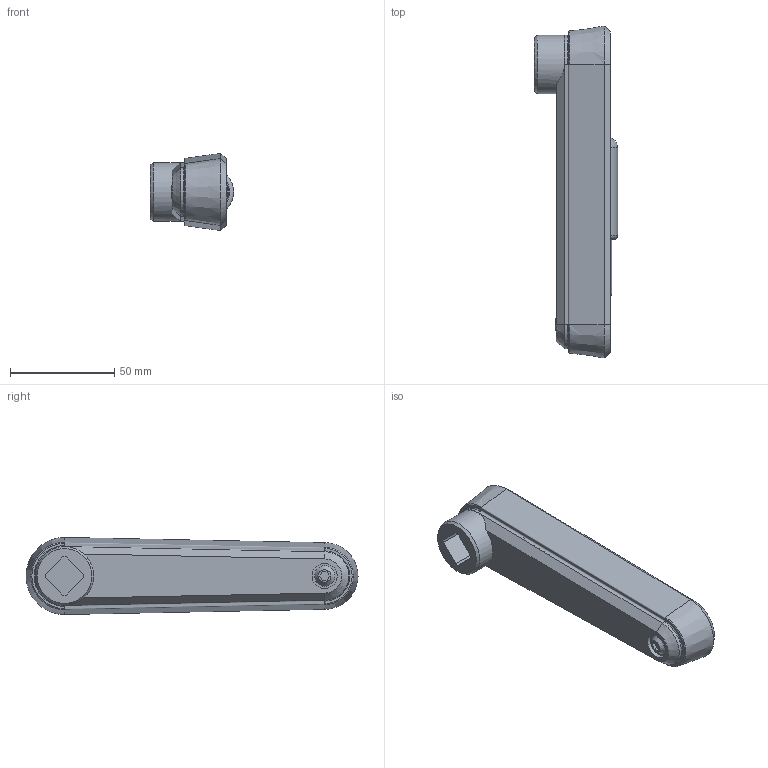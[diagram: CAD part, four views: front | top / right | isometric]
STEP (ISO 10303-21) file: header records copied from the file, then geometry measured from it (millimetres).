
FILE_DESCRIPTION( ( 'STEP AP203' ), '1' );
FILE_NAME( 'C:/Temp/Ganter_Step_05_03_2020/data/1_3/gn_472_3/Cranked handle with retractable handle GN 472.3-125-V14-SW (unactivated).stp', '2020-03-05T10:46:03', ( 'License CC BY-ND 4.0' ), ( 'CADENAS' ), ' ', 'PARTsolutions', ' ' );
FILE_SCHEMA( ( 'CONFIG_CONTROL_DESIGN' ) );
Length unit declared in the file: millimetre
Products named in the file (3): Cranked handle with retractable handle GN 472.3-125-V14-SW (unactivated); _Cranked handle with retractable handle GN 472.3-125-V14-SW (0)-1; _Cranked handle with retractable handle GN 472.3-125-V14-SW (0)-2
Assembly tree (2 placements, depth 2):
  Cranked handle with retractable handle GN 472.3-125-V14-SW (unactivated)
    _Cranked handle with retractable handle GN 472.3-125-V14-SW (0)-1
    _Cranked handle with retractable handle GN 472.3-125-V14-SW (0)-2
Bounding box: 40 x 159.5 x 37 mm (x, y, z)
Volume: 94991.1 mm3; surface area: 34514.5 mm2
Topology: 2 solids, 3 shells, 101 faces, 244 edges, 159 vertices
Faces by surface type: plane 52, cylinder 25, torus 11, cone 10, bspline 2, sphere 1
Full cylindrical faces by diameter (mm): 3 x2, 7.9 x1, 8 x1, 11 x1, 12 x1, 18.5 x1, 20 x2, 20.02 x1, 24 x1, 28 x1
Entity records: 3025 total; most frequent: CARTESIAN_POINT 677, DIRECTION 465, ORIENTED_EDGE 432, EDGE_CURVE 216, AXIS2_PLACEMENT_3D 182, VERTEX_POINT 152, EDGE_LOOP 135, FACE_OUTER_BOUND 118
